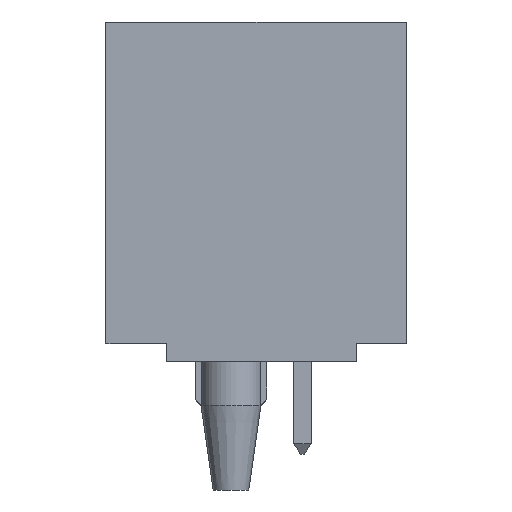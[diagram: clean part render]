
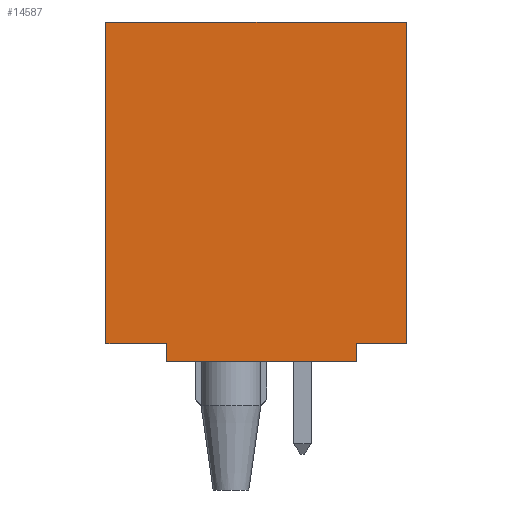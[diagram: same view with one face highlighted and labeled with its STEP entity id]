
A CAD part, left-side view. The second image highlights one B-rep face of the part: STEP entity #14587.
In plain terms, the highlighted planar face has unit normal (-1, 0, 0).
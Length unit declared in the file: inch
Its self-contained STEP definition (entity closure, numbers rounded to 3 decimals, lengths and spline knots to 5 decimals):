
#13=DIRECTION('',(0.,-1.,0.));
#14=VECTOR('',#13,0.07);
#15=CARTESIAN_POINT('',(-1.04,-0.14,-0.225));
#16=LINE('',#15,#14);
#93=DIRECTION('',(0.,-1.,0.));
#94=VECTOR('',#93,0.085);
#95=CARTESIAN_POINT('',(-1.04,0.21,-0.225));
#96=LINE('',#95,#94);
#1244=DIRECTION('',(0.,0.,1.));
#1245=VECTOR('',#1244,0.025);
#1246=CARTESIAN_POINT('',(-1.04,0.125,-0.25));
#1247=LINE('',#1246,#1245);
#1397=DIRECTION('',(0.,0.,-1.));
#1398=VECTOR('',#1397,0.025);
#1399=CARTESIAN_POINT('',(-1.04,-0.14,-0.225));
#1400=LINE('',#1399,#1398);
#1401=DIRECTION('',(0.,1.,0.));
#1402=VECTOR('',#1401,0.265);
#1403=CARTESIAN_POINT('',(-1.04,-0.14,-0.25));
#1404=LINE('',#1403,#1402);
#1405=DIRECTION('',(0.,0.,1.));
#1406=VECTOR('',#1405,0.45);
#1407=CARTESIAN_POINT('',(-1.04,0.21,-0.225));
#1408=LINE('',#1407,#1406);
#9673=DIRECTION('',(0.,-1.,0.));
#9674=VECTOR('',#9673,0.42);
#9675=CARTESIAN_POINT('',(-1.04,0.21,0.225));
#9676=LINE('',#9675,#9674);
#9721=DIRECTION('',(0.,0.,1.));
#9722=VECTOR('',#9721,0.45);
#9723=CARTESIAN_POINT('',(-1.04,-0.21,-0.225));
#9724=LINE('',#9723,#9722);
#10275=CARTESIAN_POINT('',(-1.04,0.21,0.225));
#10276=CARTESIAN_POINT('',(-1.04,-0.21,0.225));
#10277=VERTEX_POINT('',#10275);
#10278=VERTEX_POINT('',#10276);
#10283=CARTESIAN_POINT('',(-1.04,0.21,-0.225));
#10284=VERTEX_POINT('',#10283);
#10285=CARTESIAN_POINT('',(-1.04,-0.21,-0.225));
#10286=VERTEX_POINT('',#10285);
#10448=CARTESIAN_POINT('',(-1.04,0.125,-0.25));
#10450=VERTEX_POINT('',#10448);
#10451=CARTESIAN_POINT('',(-1.04,-0.14,-0.25));
#10453=VERTEX_POINT('',#10451);
#10455=CARTESIAN_POINT('',(-1.04,0.125,-0.225));
#10456=VERTEX_POINT('',#10455);
#10457=CARTESIAN_POINT('',(-1.04,-0.14,-0.225));
#10458=VERTEX_POINT('',#10457);
#14569=CARTESIAN_POINT('',(-1.04,0.21,-0.225));
#14570=DIRECTION('',(-1.,0.,0.));
#14571=DIRECTION('',(0.,-1.,0.));
#14572=AXIS2_PLACEMENT_3D('',#14569,#14570,#14571);
#14573=PLANE('',#14572);
#14574=ORIENTED_EDGE('',*,*,#13358,.F.);
#14575=ORIENTED_EDGE('',*,*,#14563,.T.);
#14576=ORIENTED_EDGE('',*,*,#14313,.T.);
#14577=ORIENTED_EDGE('',*,*,#14346,.T.);
#14578=ORIENTED_EDGE('',*,*,#13398,.F.);
#14580=ORIENTED_EDGE('',*,*,#14579,.T.);
#14582=ORIENTED_EDGE('',*,*,#14581,.T.);
#14584=ORIENTED_EDGE('',*,*,#14583,.F.);
#14585=EDGE_LOOP('',(#14574,#14575,#14576,#14577,#14578,#14580,#14582,#14584));
#14586=FACE_OUTER_BOUND('',#14585,.F.);
#14587=ADVANCED_FACE('',(#14586),#14573,.T.);
#13358=EDGE_CURVE('',#10458,#10286,#16,.T.);
#13398=EDGE_CURVE('',#10284,#10456,#96,.T.);
#14313=EDGE_CURVE('',#10453,#10450,#1404,.T.);
#14346=EDGE_CURVE('',#10450,#10456,#1247,.T.);
#14563=EDGE_CURVE('',#10458,#10453,#1400,.T.);
#14579=EDGE_CURVE('',#10284,#10277,#1408,.T.);
#14581=EDGE_CURVE('',#10277,#10278,#9676,.T.);
#14583=EDGE_CURVE('',#10286,#10278,#9724,.T.);
